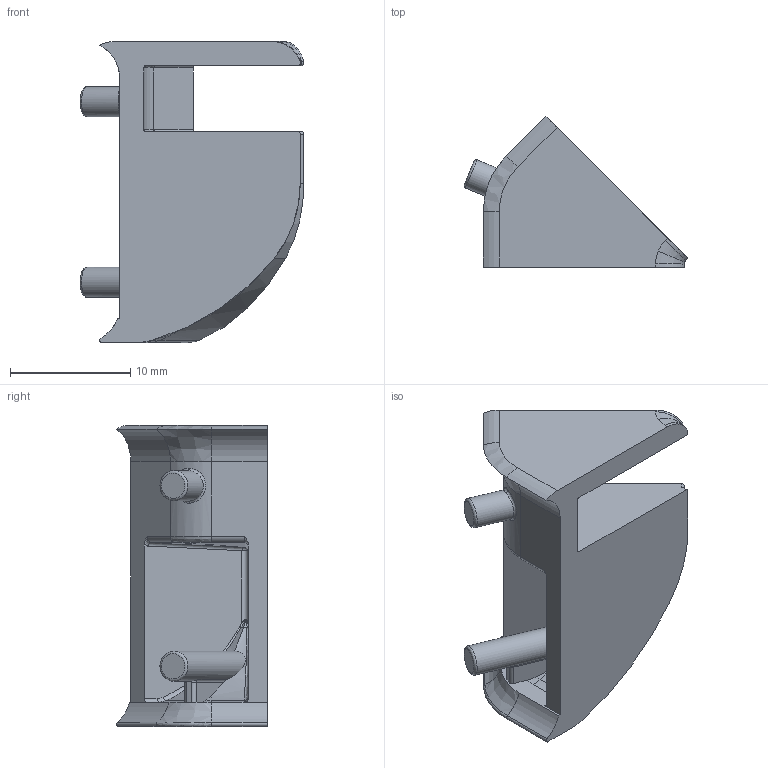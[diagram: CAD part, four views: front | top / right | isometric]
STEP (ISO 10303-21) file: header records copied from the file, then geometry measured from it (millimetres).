
FILE_DESCRIPTION (( 'STEP AP214' ), '1' );
FILE_NAME ('L15867.step', '2024-12-03T16:20:24', ( '' ), ( '' ), 'SwSTEP 2.0', 'SolidWorks 2023', '' );
FILE_SCHEMA (( 'AUTOMOTIVE_DESIGN' ));
Length unit declared in the file: millimetre
Products named in the file (1): L15867
Bounding box: 18.59 x 12.53 x 25 mm (x, y, z)
Volume: 1410.4 mm3; surface area: 1728.8 mm2
Topology: 1 solids, 1 shells, 104 faces, 288 edges, 184 vertices
Faces by surface type: cylinder 46, bspline 35, plane 22, cone 1
Full cylindrical faces by diameter (mm): 2.5 x2
Entity records: 5296 total; most frequent: CARTESIAN_POINT 2978, ORIENTED_EDGE 554, DIRECTION 384, EDGE_CURVE 277, VERTEX_POINT 180, AXIS2_PLACEMENT_3D 143, EDGE_LOOP 109, FACE_OUTER_BOUND 108
